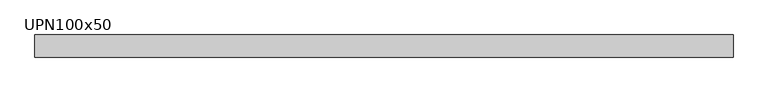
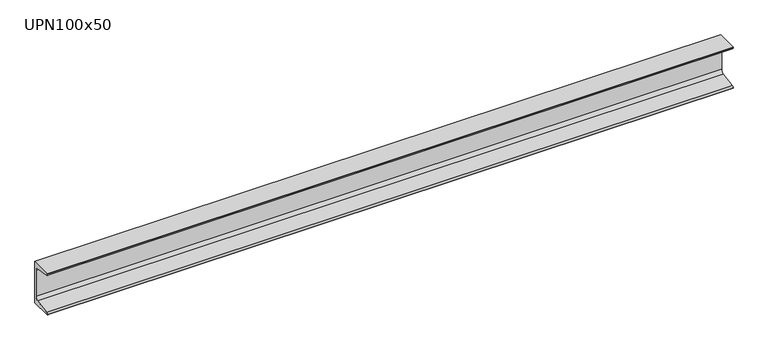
"""IFC4 building model written with IfcOpenShell, lengths in millimetres: beam geometry, M_MC Shapes : UPN100x50."""

from ifc_helpers import new_model, si_unit, point, frame, frame_2d, origin, place, context, project, spatial, polyline, circle_curve, trimmed, segment, composite_curve, outline, extrude, source, transform, mapped, element, save


def upn100x50_abb258e1(model_context):
    return source(origin(), model_context, "Body", "SweptSolid", [
        extrude(outline(composite_curve([segment(polyline([(10.9, 50.0), (10.9, -50.0), (-39.1, -50.0), (-39.1, -49.0253247)]), True, "CONTINUOUS"), segment(trimmed(circle_curve(frame_2d((-35.15, -49.0253247)), 3.95), [point((-39.1, -49.0253247))], [point((-35.7993773, -45.1290689))], False, "CARTESIAN"), True, "CONTINUOUS"), segment(polyline([(-35.7993773, -45.1290689), (-0.2512455, -39.2043685)]), True, "CONTINUOUS"), segment(trimmed(circle_curve(frame_2d((-1.55, -31.4118569)), 7.9), [point((-0.2512455, -39.2043685))], [point((6.35, -31.4118569))], True, "CARTESIAN"), True, "CONTINUOUS"), segment(polyline([(6.35, -31.4118569), (6.35, 31.4118569)]), True, "CONTINUOUS"), segment(trimmed(circle_curve(frame_2d((-1.55, 31.4118569)), 7.9), [point((6.35, 31.4118569))], [point((-0.2512455, 39.2043685))], True, "CARTESIAN"), True, "CONTINUOUS"), segment(polyline([(-0.2512455, 39.2043685), (-35.7993773, 45.1290689)]), True, "CONTINUOUS"), segment(trimmed(circle_curve(frame_2d((-35.15, 49.0253247)), 3.95), [point((-35.7993773, 45.1290689))], [point((-39.1, 49.0253247))], False, "CARTESIAN"), True, "CONTINUOUS"), segment(polyline([(-39.1, 49.0253247), (-39.1, 50.0), (10.9, 50.0)]), True, "CONTINUOUS")], self_intersect=False)), frame((-790.0, 0.0, 0.0), z_axis=(1.0, 0.0, 0.0), x_axis=(0.0, 1.0, 0.0)), (0.0, 0.0, 1.0), 1580.0),
    ])


if __name__ == "__main__":
    model = new_model("IFC4")
    model_context = context("Model", 3, world=origin())
    ifc_project = project(units=[si_unit("LENGTHUNIT", "METRE", prefix="MILLI")], contexts=[model_context])
    site = spatial("IfcSite", under=ifc_project)
    building = spatial("IfcBuilding", under=site)
    placement = place(None, origin())
    upn100x50_shape = upn100x50_abb258e1(model_context)
    element("IfcBeam", 1, ObjectType="M_MC Shapes : UPN100x50", at=placement, inside=building, context=model_context, shape_type="MappedRepresentation", body=[
        mapped(upn100x50_shape, transform((0.0, 0.0, 0.0), x_axis=(1.0, 0.0, 0.0), y_axis=(0.0, 1.0, 0.0), z_axis=(0.0, 0.0, 1.0))),
    ])
    save(model, "model.ifc")
